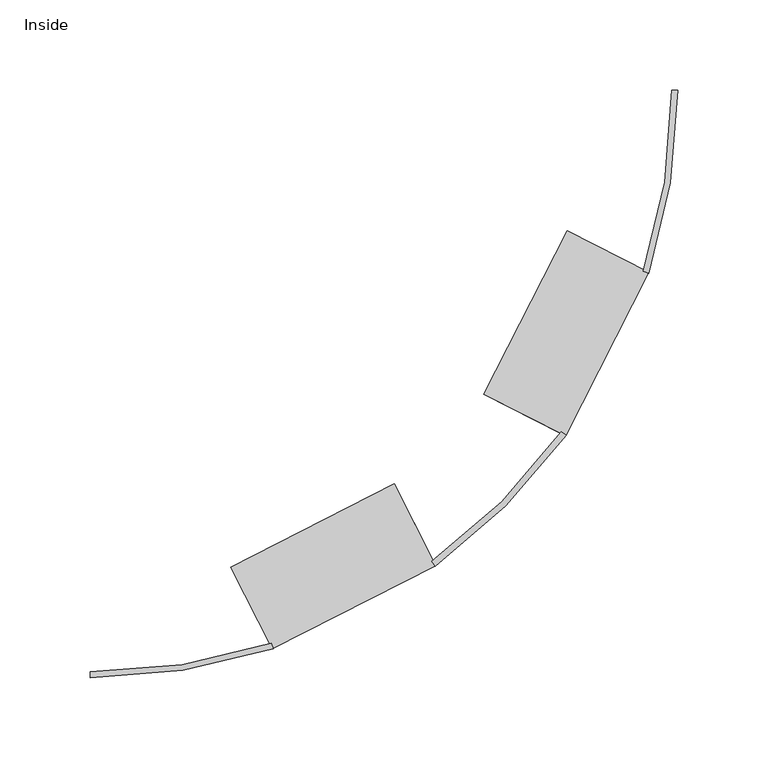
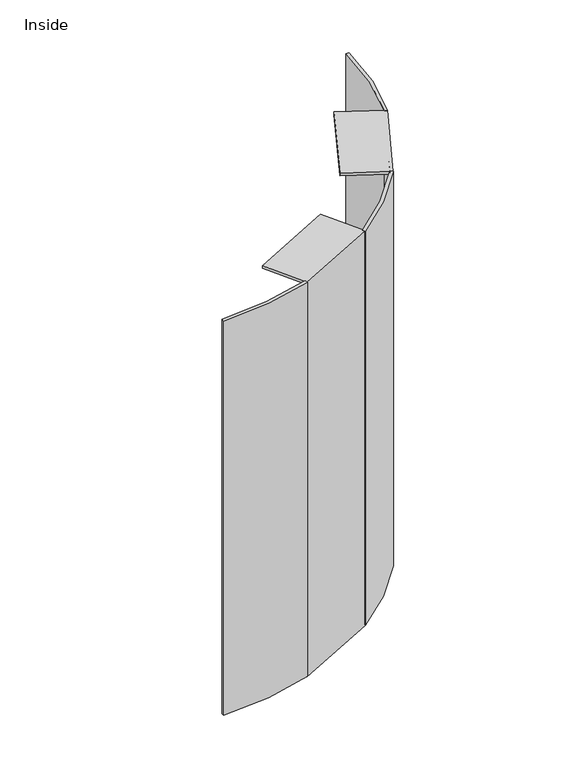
"""IFC4 building model written with IfcOpenShell, lengths in millimetres: cable carrier fitting geometry, Bend-Vertical-Cablofil-Wire_Mesh_Cable_Tray : Inside."""

from ifc_helpers import new_model, si_unit, point, frame, frame_2d, origin, place, context, project, spatial, polyline, circle_curve, trimmed, segment, composite_curve, outline, extrude, source, transform, mapped, element, save


def inside_2fc0db71(model_context):
    return source(origin(), model_context, "Body", "SweptSolid", [
        extrude(outline(composite_curve([segment(polyline([(-38.8642405, 110.7062894), (-36.2956115, 108.8400712)]), True, "CONTINUOUS"), segment(trimmed(circle_curve(frame_2d((-301.5816877, 301.5816877)), 327.9116237), [point((-36.2956115, 108.8400712))], [point((-108.8400712, 36.2956115))], False, "CARTESIAN"), True, "CONTINUOUS"), segment(polyline([(-108.8400712, 36.2956115), (-110.7062894, 38.8642405)]), True, "CONTINUOUS"), segment(trimmed(circle_curve(frame_2d((-301.5816877, 301.5816877)), 324.7366237), [point((-110.7062894, 38.8642405))], [point((-38.8642405, 110.7062894))], True, "CARTESIAN"), True, "CONTINUOUS")], self_intersect=False)), frame((0.0, 0.0, -228.6), z_axis=(0.0, 0.0, 1.0), x_axis=(1.0, 0.0, 0.0)), (0.0, 0.0, 1.0), 457.2),
        extrude(outline(composite_curve([segment(polyline([(-199.4841677, -6.3703479), (-198.5030387, -9.3899523)]), True, "CONTINUOUS"), segment(trimmed(circle_curve(frame_2d((-299.8333031, 302.4725341)), 327.9116237), [point((-198.5030387, -9.3899523))], [point((-299.8333031, -25.4390895))], False, "CARTESIAN"), True, "CONTINUOUS"), segment(polyline([(-299.8333031, -25.4390895), (-299.8333031, -22.2640895)]), True, "CONTINUOUS"), segment(trimmed(circle_curve(frame_2d((-299.8333031, 302.4725341)), 324.7366237), [point((-299.8333031, -22.2640895))], [point((-199.4841677, -6.3703479))], True, "CARTESIAN"), True, "CONTINUOUS")], self_intersect=False)), frame((0.0, 0.0, -228.6), z_axis=(0.0, 0.0, 1.0), x_axis=(1.0, 0.0, 0.0)), (0.0, 0.0, 1.0), 457.2),
        extrude(outline(composite_curve([segment(polyline([(22.2640895, 299.8333031), (25.4390895, 299.8333031)]), True, "CONTINUOUS"), segment(trimmed(circle_curve(frame_2d((-302.4725341, 299.8333031)), 327.9116237), [point((25.4390895, 299.8333031))], [point((9.3899523, 198.5030387))], False, "CARTESIAN"), True, "CONTINUOUS"), segment(polyline([(9.3899523, 198.5030387), (6.3703479, 199.4841677)]), True, "CONTINUOUS"), segment(trimmed(circle_curve(frame_2d((-302.4725341, 299.8333031)), 324.7366237), [point((6.3703479, 199.4841677))], [point((22.2640895, 299.8333031))], True, "CARTESIAN"), True, "CONTINUOUS")], self_intersect=False)), frame((0.0, 0.0, -228.6), z_axis=(0.0, 0.0, 1.0), x_axis=(1.0, 0.0, 0.0)), (0.0, 0.0, 1.0), 457.2),
        extrude(outline(polyline([(-50.8000001, 0.0), (0.0, 0.0), (0.0, -457.2), (-50.8000001, -457.2), (-50.8000001, -454.025), (-3.1750001, -454.025), (-3.1750001, -3.175), (-50.8000001, -3.175), (-50.8000001, 0.0)])), frame((-198.9874882, -9.5062584, -228.6), z_axis=(0.8910065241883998, 0.4539904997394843, 0.0), x_axis=(0.4539904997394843, -0.8910065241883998, 0.0)), (0.0, 0.0, 1.0), 101.6),
        extrude(outline(polyline([(-50.8000001, 0.0), (0.0, 0.0), (0.0, -457.2), (-50.8000001, -457.2), (-50.8000001, -454.025), (-3.175, -454.025), (-3.175, -3.175), (-50.8000001, -3.175), (-50.8000001, 0.0)])), frame((-36.6191764, 108.4612254, -228.6), z_axis=(0.45399049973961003, 0.8910065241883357, 0.0), x_axis=(0.8910065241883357, -0.45399049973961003, 0.0)), (0.0, 0.0, 1.0), 101.6),
    ])


if __name__ == "__main__":
    model = new_model("IFC4")
    model_context = context("Model", 3, world=origin())
    ifc_project = project(units=[si_unit("LENGTHUNIT", "METRE", prefix="MILLI")], contexts=[model_context])
    site = spatial("IfcSite", under=ifc_project)
    building = spatial("IfcBuilding", under=site)
    placement = place(None, origin())
    inside_shape = inside_2fc0db71(model_context)
    element("IfcCableCarrierFitting", 1, ObjectType="Bend-Vertical-Cablofil-Wire_Mesh_Cable_Tray : Inside", at=placement, inside=building, context=model_context, shape_type="MappedRepresentation", body=[
        mapped(inside_shape, transform((0.0, 0.0, 0.0), x_axis=(1.0, 0.0, 0.0), y_axis=(0.0, 1.0, 0.0), z_axis=(0.0, 0.0, 1.0))),
    ])
    save(model, "model.ifc")
